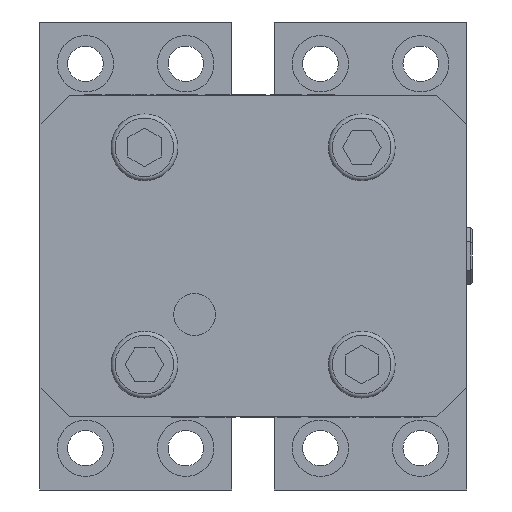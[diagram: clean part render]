
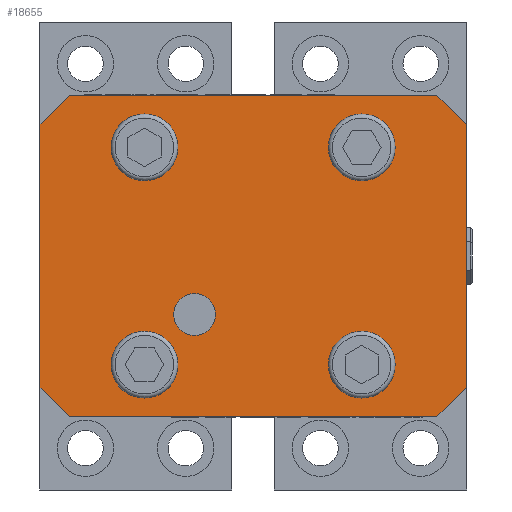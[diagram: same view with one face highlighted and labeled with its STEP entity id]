
A CAD part, front view. The second image highlights one B-rep face of the part: STEP entity #18655.
In plain terms, the highlighted planar face has unit normal (0, -1, 0).
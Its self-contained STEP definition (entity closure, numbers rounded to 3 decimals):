
#153 = VERTEX_POINT ( 'NONE', #20534 ) ;
#312 = CARTESIAN_POINT ( 'NONE',  ( -51., 0., -31.5 ) ) ;
#700 = AXIS2_PLACEMENT_3D ( 'NONE', #30914, #31125, #40748 ) ;
#1581 = CARTESIAN_POINT ( 'NONE',  ( -51., 0., -38.5 ) ) ;
#2293 = ORIENTED_EDGE ( 'NONE', *, *, #5144, .F. ) ;
#3015 = FACE_BOUND ( 'NONE', #41607, .T. ) ;
#3261 = DIRECTION ( 'NONE',  ( 0., 0., -1. ) ) ;
#3311 = EDGE_CURVE ( 'NONE', #25297, #3834, #19296, .T. ) ;
#3393 = DIRECTION ( 'NONE',  ( -1., 0., 0. ) ) ;
#3548 = AXIS2_PLACEMENT_3D ( 'NONE', #43475, #19948, #43264 ) ;
#3834 = VERTEX_POINT ( 'NONE', #312 ) ;
#4149 = CARTESIAN_POINT ( 'NONE',  ( -44., 0., 38.5 ) ) ;
#4401 = EDGE_CURVE ( 'NONE', #9669, #10094, #7766, .T. ) ;
#4476 = ORIENTED_EDGE ( 'NONE', *, *, #11521, .T. ) ;
#5144 = EDGE_CURVE ( 'NONE', #20737, #20737, #14910, .T. ) ;
#6136 = FACE_BOUND ( 'NONE', #12078, .T. ) ;
#6266 = AXIS2_PLACEMENT_3D ( 'NONE', #12333, #18818, #43233 ) ;
#6553 = VERTEX_POINT ( 'NONE', #21717 ) ;
#6839 = CARTESIAN_POINT ( 'NONE',  ( -14., 0., -19. ) ) ;
#7429 = VECTOR ( 'NONE', #21053, 1000. ) ;
#7766 = LINE ( 'NONE', #18114, #24844 ) ;
#8109 = LINE ( 'NONE', #42193, #8886 ) ;
#8366 = ORIENTED_EDGE ( 'NONE', *, *, #18555, .T. ) ;
#8886 = VECTOR ( 'NONE', #14894, 1000. ) ;
#9526 = PLANE ( 'NONE',  #42242 ) ;
#9600 = CARTESIAN_POINT ( 'NONE',  ( 44., 0., -38.5 ) ) ;
#9669 = VERTEX_POINT ( 'NONE', #9600 ) ;
#9965 = DIRECTION ( 'NONE',  ( 0., 1., 0. ) ) ;
#10017 = VERTEX_POINT ( 'NONE', #10879 ) ;
#10094 = VERTEX_POINT ( 'NONE', #24100 ) ;
#10464 = CARTESIAN_POINT ( 'NONE',  ( 26., 0., -20. ) ) ;
#10552 = DIRECTION ( 'NONE',  ( 0., -1., 0. ) ) ;
#10879 = CARTESIAN_POINT ( 'NONE',  ( -26., 0., 20. ) ) ;
#11124 = EDGE_LOOP ( 'NONE', ( #4476, #23188, #28780, #8366, #43501, #35603, #34120, #20645 ) ) ;
#11378 = EDGE_CURVE ( 'NONE', #26149, #42005, #26707, .T. ) ;
#11466 = EDGE_CURVE ( 'NONE', #153, #153, #21034, .T. ) ;
#11521 = EDGE_CURVE ( 'NONE', #6553, #29199, #20394, .T. ) ;
#12078 = EDGE_LOOP ( 'NONE', ( #2293 ) ) ;
#12270 = VECTOR ( 'NONE', #40025, 1000. ) ;
#12333 = CARTESIAN_POINT ( 'NONE',  ( 26., 0., -26. ) ) ;
#12936 = AXIS2_PLACEMENT_3D ( 'NONE', #20028, #30158, #3261 ) ;
#13351 = DIRECTION ( 'NONE',  ( 0., 0., 1. ) ) ;
#13499 = DIRECTION ( 'NONE',  ( 1., 0., 0. ) ) ;
#13637 = VERTEX_POINT ( 'NONE', #6839 ) ;
#14514 = VERTEX_POINT ( 'NONE', #28132 ) ;
#14894 = DIRECTION ( 'NONE',  ( -0.707, 0., 0.707 ) ) ;
#14910 = CIRCLE ( 'NONE', #6266, 6. ) ;
#15141 = EDGE_LOOP ( 'NONE', ( #16236 ) ) ;
#15326 = DIRECTION ( 'NONE',  ( 0., 0., -1. ) ) ;
#15759 = EDGE_CURVE ( 'NONE', #29199, #25297, #38018, .T. ) ;
#16049 = FACE_OUTER_BOUND ( 'NONE', #11124, .T. ) ;
#16236 = ORIENTED_EDGE ( 'NONE', *, *, #19257, .F. ) ;
#16978 = VECTOR ( 'NONE', #37812, 1000. ) ;
#17917 = VECTOR ( 'NONE', #38649, 1000. ) ;
#18114 = CARTESIAN_POINT ( 'NONE',  ( 51., 0., -38.5 ) ) ;
#18555 = EDGE_CURVE ( 'NONE', #3834, #10094, #19140, .T. ) ;
#18655 = ADVANCED_FACE ( 'NONE', ( #3015, #33262, #6136, #23412, #37305, #16049 ), #9526, .F. ) ;
#18818 = DIRECTION ( 'NONE',  ( 0., -1., 0. ) ) ;
#18899 = EDGE_LOOP ( 'NONE', ( #41600 ) ) ;
#19123 = ORIENTED_EDGE ( 'NONE', *, *, #11466, .F. ) ;
#19140 = LINE ( 'NONE', #42883, #17917 ) ;
#19257 = EDGE_CURVE ( 'NONE', #10017, #10017, #37990, .T. ) ;
#19269 = CIRCLE ( 'NONE', #3548, 5. ) ;
#19296 = LINE ( 'NONE', #1581, #41728 ) ;
#19947 = CARTESIAN_POINT ( 'NONE',  ( 51., 0., -38.5 ) ) ;
#19948 = DIRECTION ( 'NONE',  ( 0., -1., 0. ) ) ;
#20028 = CARTESIAN_POINT ( 'NONE',  ( -26., 0., 26. ) ) ;
#20394 = LINE ( 'NONE', #34076, #28908 ) ;
#20534 = CARTESIAN_POINT ( 'NONE',  ( -20., 0., -26. ) ) ;
#20645 = ORIENTED_EDGE ( 'NONE', *, *, #35837, .T. ) ;
#20737 = VERTEX_POINT ( 'NONE', #10464 ) ;
#21034 = CIRCLE ( 'NONE', #38906, 6. ) ;
#21053 = DIRECTION ( 'NONE',  ( 0., 0., -1. ) ) ;
#21159 = EDGE_LOOP ( 'NONE', ( #19123 ) ) ;
#21398 = EDGE_CURVE ( 'NONE', #13637, #13637, #19269, .T. ) ;
#21500 = CARTESIAN_POINT ( 'NONE',  ( 51., 0., -31.5 ) ) ;
#21717 = CARTESIAN_POINT ( 'NONE',  ( 44., 0., 38.5 ) ) ;
#22050 = CARTESIAN_POINT ( 'NONE',  ( 51., 0., -31.5 ) ) ;
#23188 = ORIENTED_EDGE ( 'NONE', *, *, #15759, .T. ) ;
#23412 = FACE_BOUND ( 'NONE', #21159, .T. ) ;
#24100 = CARTESIAN_POINT ( 'NONE',  ( -44., 0., -38.5 ) ) ;
#24844 = VECTOR ( 'NONE', #27556, 1000. ) ;
#25201 = CARTESIAN_POINT ( 'NONE',  ( 51., 0., 31.5 ) ) ;
#25297 = VERTEX_POINT ( 'NONE', #41559 ) ;
#26149 = VERTEX_POINT ( 'NONE', #25201 ) ;
#26401 = LINE ( 'NONE', #21500, #12270 ) ;
#26707 = LINE ( 'NONE', #19947, #7429 ) ;
#27556 = DIRECTION ( 'NONE',  ( -1., 0., 0. ) ) ;
#28132 = CARTESIAN_POINT ( 'NONE',  ( 20., 0., 26. ) ) ;
#28780 = ORIENTED_EDGE ( 'NONE', *, *, #3311, .T. ) ;
#28908 = VECTOR ( 'NONE', #3393, 1000. ) ;
#29199 = VERTEX_POINT ( 'NONE', #30137 ) ;
#30137 = CARTESIAN_POINT ( 'NONE',  ( -44., 0., 38.5 ) ) ;
#30158 = DIRECTION ( 'NONE',  ( 0., -1., 0. ) ) ;
#30914 = CARTESIAN_POINT ( 'NONE',  ( 26., 0., 26. ) ) ;
#30946 = CARTESIAN_POINT ( 'NONE',  ( -26., 0., -26. ) ) ;
#31125 = DIRECTION ( 'NONE',  ( 0., -1., 0. ) ) ;
#33262 = FACE_BOUND ( 'NONE', #18899, .T. ) ;
#33705 = CARTESIAN_POINT ( 'NONE',  ( 51., 0., -38.5 ) ) ;
#34062 = EDGE_CURVE ( 'NONE', #14514, #14514, #40778, .T. ) ;
#34076 = CARTESIAN_POINT ( 'NONE',  ( 51., 0., 38.5 ) ) ;
#34120 = ORIENTED_EDGE ( 'NONE', *, *, #11378, .F. ) ;
#35603 = ORIENTED_EDGE ( 'NONE', *, *, #41791, .T. ) ;
#35837 = EDGE_CURVE ( 'NONE', #26149, #6553, #8109, .T. ) ;
#37305 = FACE_BOUND ( 'NONE', #15141, .T. ) ;
#37812 = DIRECTION ( 'NONE',  ( -0.707, 0., -0.707 ) ) ;
#37990 = CIRCLE ( 'NONE', #12936, 6. ) ;
#38018 = LINE ( 'NONE', #4149, #16978 ) ;
#38649 = DIRECTION ( 'NONE',  ( 0.707, 0., -0.707 ) ) ;
#38906 = AXIS2_PLACEMENT_3D ( 'NONE', #30946, #10552, #13499 ) ;
#40025 = DIRECTION ( 'NONE',  ( 0.707, 0., 0.707 ) ) ;
#40748 = DIRECTION ( 'NONE',  ( -1., 0., 0. ) ) ;
#40778 = CIRCLE ( 'NONE', #700, 6. ) ;
#41559 = CARTESIAN_POINT ( 'NONE',  ( -51., 0., 31.5 ) ) ;
#41600 = ORIENTED_EDGE ( 'NONE', *, *, #34062, .F. ) ;
#41607 = EDGE_LOOP ( 'NONE', ( #44007 ) ) ;
#41728 = VECTOR ( 'NONE', #15326, 1000. ) ;
#41791 = EDGE_CURVE ( 'NONE', #9669, #42005, #26401, .T. ) ;
#42005 = VERTEX_POINT ( 'NONE', #22050 ) ;
#42193 = CARTESIAN_POINT ( 'NONE',  ( 51., 0., 31.5 ) ) ;
#42242 = AXIS2_PLACEMENT_3D ( 'NONE', #33705, #9965, #13351 ) ;
#42883 = CARTESIAN_POINT ( 'NONE',  ( -44., 0., -38.5 ) ) ;
#43233 = DIRECTION ( 'NONE',  ( 0., 0., 1. ) ) ;
#43264 = DIRECTION ( 'NONE',  ( 0., 0., -1. ) ) ;
#43475 = CARTESIAN_POINT ( 'NONE',  ( -14., 0., -14. ) ) ;
#43501 = ORIENTED_EDGE ( 'NONE', *, *, #4401, .F. ) ;
#44007 = ORIENTED_EDGE ( 'NONE', *, *, #21398, .F. ) ;
